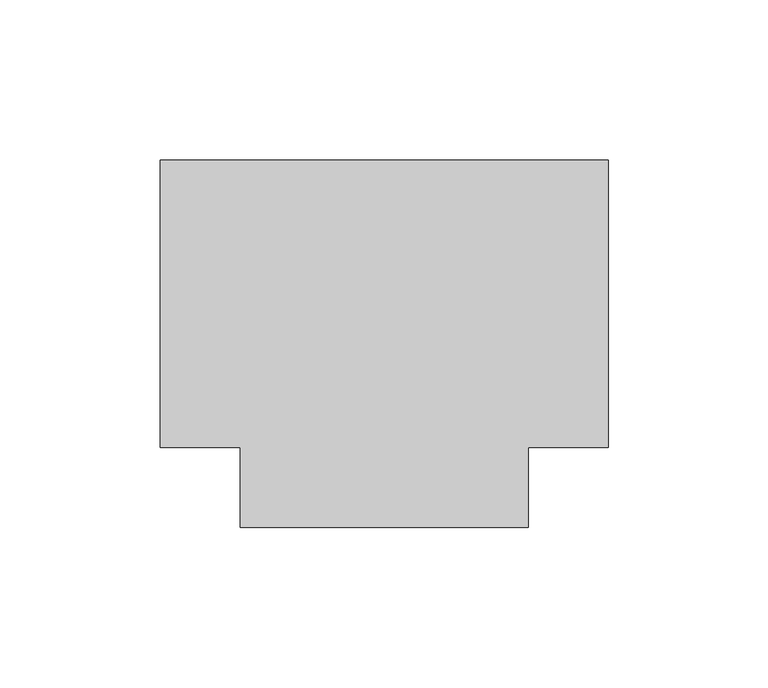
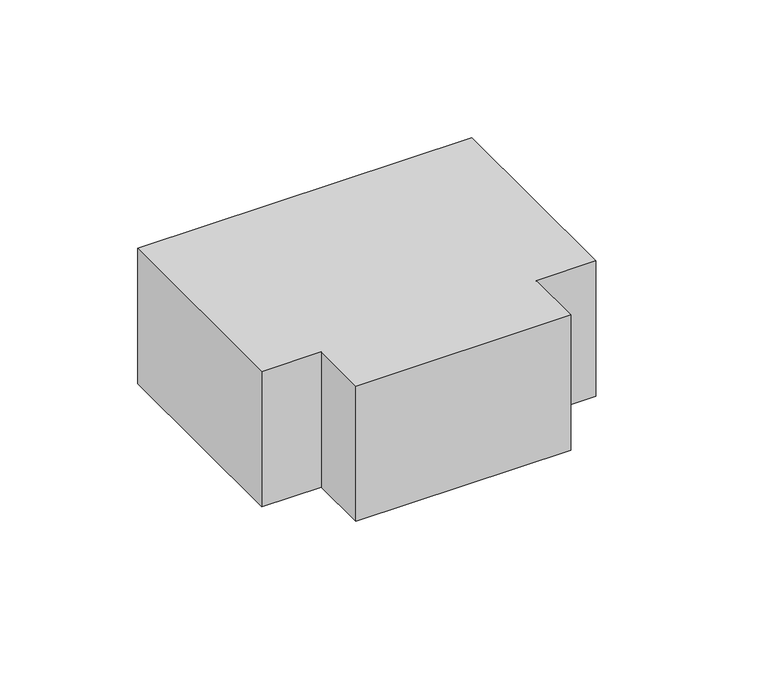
"""IFC4 building model written with IfcOpenShell, lengths in millimetres: duct fitting geometry, КНС_Тройник_DKC : Стандарт."""

from ifc_helpers import new_model, si_unit, frame, origin, place, context, project, spatial, polyline, outline, extrude, source, transform, mapped, element, save


def duct_fitting_fa5662ab(model_context):
    return source(origin(), model_context, "Body", "SweptSolid", [
        extrude(outline(polyline([(-70.0, -45.0), (-70.0, 45.0), (70.0, 45.0), (70.0, -45.0), (45.0, -45.0), (45.0, -70.0), (-45.0, -70.0), (-45.0, -45.0), (-70.0, -45.0)])), frame((0.0, 0.0, -30.0), z_axis=(0.0, 0.0, 1.0), x_axis=(1.0, 0.0, 0.0)), (0.0, 0.0, 1.0), 60.0),
    ])


if __name__ == "__main__":
    model = new_model("IFC4")
    model_context = context("Model", 3, world=origin())
    ifc_project = project(units=[si_unit("LENGTHUNIT", "METRE", prefix="MILLI")], contexts=[model_context])
    site = spatial("IfcSite", under=ifc_project)
    building = spatial("IfcBuilding", under=site)
    placement = place(None, origin())
    duct_fitting_shape = duct_fitting_fa5662ab(model_context)
    element("IfcDuctFitting", 1, ObjectType="КНС_Тройник_DKC : Стандарт", at=placement, inside=building, context=model_context, shape_type="MappedRepresentation", body=[
        mapped(duct_fitting_shape, transform((0.0, 0.0, 0.0), x_axis=(1.0, 0.0, 0.0), y_axis=(0.0, 1.0, 0.0), z_axis=(0.0, 0.0, 1.0))),
    ])
    save(model, "model.ifc")
